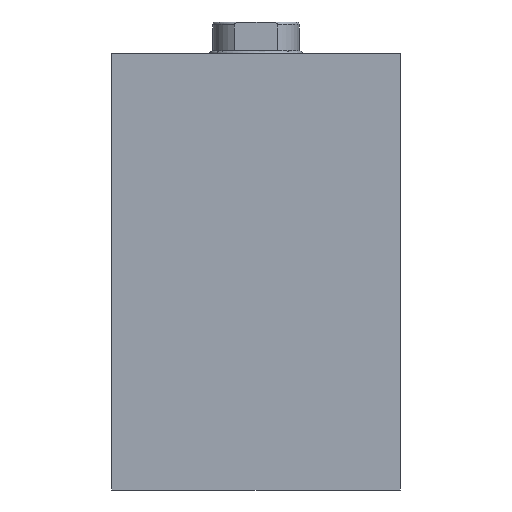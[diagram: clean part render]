
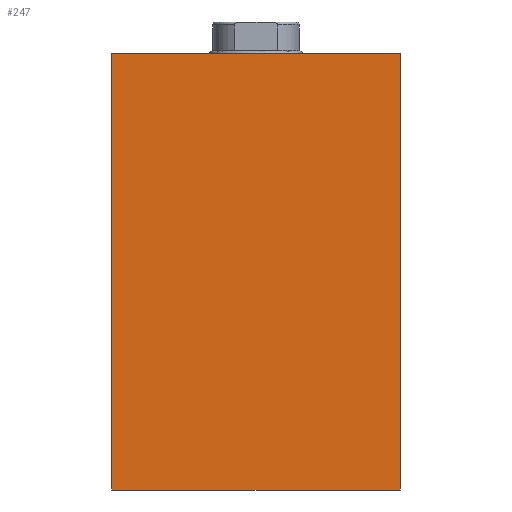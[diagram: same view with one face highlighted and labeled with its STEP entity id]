
A CAD part, left-side view. The second image highlights one B-rep face of the part: STEP entity #247.
In plain terms, the highlighted planar face has unit normal (-1, 0, 0) as drawn and (0, 0, -1) by its records, which use the part's own axes.
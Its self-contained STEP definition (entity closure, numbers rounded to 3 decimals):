
#247 = ADVANCED_FACE( '', ( #338 ), #339, .F. );
#338 = FACE_OUTER_BOUND( '', #554, .T. );
#339 = PLANE( '', #555 );
#554 = EDGE_LOOP( '', ( #789, #790, #791, #792 ) );
#555 = AXIS2_PLACEMENT_3D( '', #793, #794, #795 );
#789 = ORIENTED_EDGE( '', *, *, #1166, .T. );
#790 = ORIENTED_EDGE( '', *, *, #1183, .F. );
#791 = ORIENTED_EDGE( '', *, *, #1178, .F. );
#792 = ORIENTED_EDGE( '', *, *, #1182, .T. );
#793 = CARTESIAN_POINT( '', ( 151., -50., -37.5 ) );
#794 = DIRECTION( '', ( 0., 0., 1. ) );
#795 = DIRECTION( '', ( 1., 0., 0. ) );
#1166 = EDGE_CURVE( '', #1267, #1265, #1268, .T. );
#1178 = EDGE_CURVE( '', #1287, #1289, #1290, .T. );
#1182 = EDGE_CURVE( '', #1287, #1267, #1296, .T. );
#1183 = EDGE_CURVE( '', #1289, #1265, #1297, .T. );
#1265 = VERTEX_POINT( '', #1510 );
#1267 = VERTEX_POINT( '', #1513 );
#1268 = LINE( '', #1514, #1515 );
#1287 = VERTEX_POINT( '', #1706 );
#1289 = VERTEX_POINT( '', #1709 );
#1290 = LINE( '', #1710, #1711 );
#1296 = B_SPLINE_CURVE_WITH_KNOTS( '', 1, ( #1784, #1785 ), .UNSPECIFIED., .F., .F., ( 2, 2 ), ( 0., 1. ), .UNSPECIFIED. );
#1297 = B_SPLINE_CURVE_WITH_KNOTS( '', 1, ( #1786, #1787 ), .UNSPECIFIED., .F., .F., ( 2, 2 ), ( 0., 1. ), .UNSPECIFIED. );
#1510 = CARTESIAN_POINT( '', ( 0., 50., -37.5 ) );
#1513 = CARTESIAN_POINT( '', ( 0., -50., -37.5 ) );
#1514 = CARTESIAN_POINT( '', ( 0., -50., -37.5 ) );
#1515 = VECTOR( '', #4090, 1000. );
#1706 = CARTESIAN_POINT( '', ( 151., -50., -37.5 ) );
#1709 = CARTESIAN_POINT( '', ( 151., 50., -37.5 ) );
#1710 = CARTESIAN_POINT( '', ( 151., -50., -37.5 ) );
#1711 = VECTOR( '', #4097, 1000. );
#1784 = CARTESIAN_POINT( '', ( 151., -50., -37.5 ) );
#1785 = CARTESIAN_POINT( '', ( 0., -50., -37.5 ) );
#1786 = CARTESIAN_POINT( '', ( 151., 50., -37.5 ) );
#1787 = CARTESIAN_POINT( '', ( 0., 50., -37.5 ) );
#4090 = DIRECTION( '', ( 0., 1., 0. ) );
#4097 = DIRECTION( '', ( 0., 1., 0. ) );
